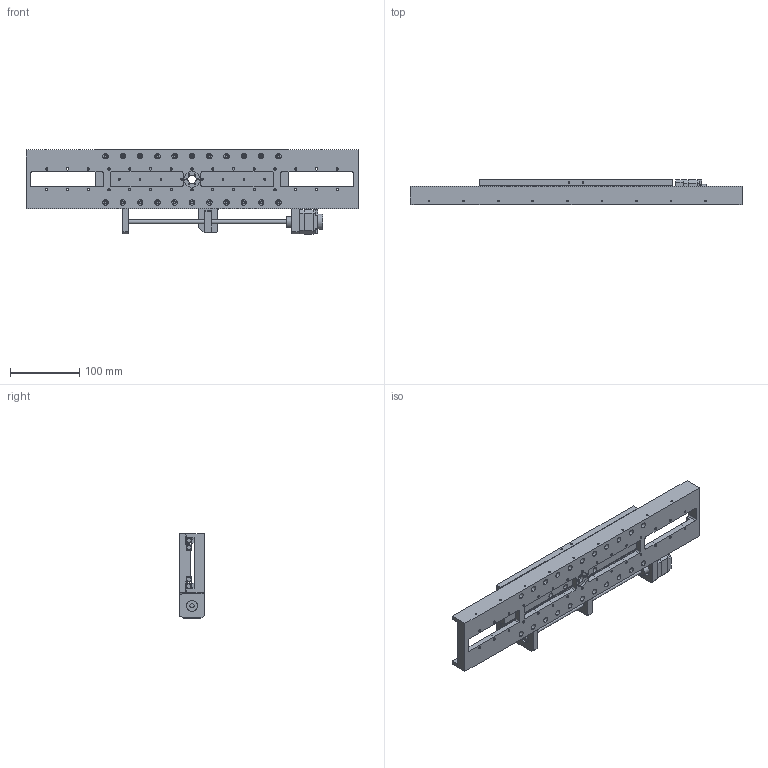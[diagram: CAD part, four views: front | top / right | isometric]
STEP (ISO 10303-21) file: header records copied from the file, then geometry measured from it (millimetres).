
FILE_DESCRIPTION (( 'STEP AP214' ), '1' );
FILE_NAME ('VSM17-X-200.STEP', '2022-12-15T14:58:09', ( '' ), ( '' ), 'SwSTEP 2.0', 'SolidWorks 2022', '' );
FILE_SCHEMA (( 'AUTOMOTIVE_DESIGN' ));
Length unit declared in the file: millimetre
Products named in the file (7): Simplified VSM17-X-200 Base V2; CRW3_275C35SL_7; Simplified Motor_H; Simplified Leadscrew Nut; VSM17-X-200; Simplified VSM17-X-200 Carriage; Simplified Drivetrain_VSM17-X-200
Assembly tree (9 placements, depth 2):
  VSM17-X-200
    Simplified VSM17-X-200 Base V2
    CRW3_275C35SL_7  x4
    Simplified VSM17-X-200 Carriage
    Simplified Motor_H
    Simplified Drivetrain_VSM17-X-200
    Simplified Leadscrew Nut
Bounding box: 480 x 36 x 121.7 mm (x, y, z)
Volume: 823103.8 mm3; surface area: 263598 mm2
Topology: 9 solids, 9 shells, 1229 faces, 3120 edges, 1981 vertices
Faces by surface type: cylinder 674, plane 339, cone 200, torus 16
Entity records: 30347 total; most frequent: DIRECTION 4981, CARTESIAN_POINT 4627, ORIENTED_EDGE 4300, EDGE_CURVE 2150, AXIS2_PLACEMENT_3D 1982, VERTEX_POINT 1408, EDGE_LOOP 1234, CIRCLE 1122
